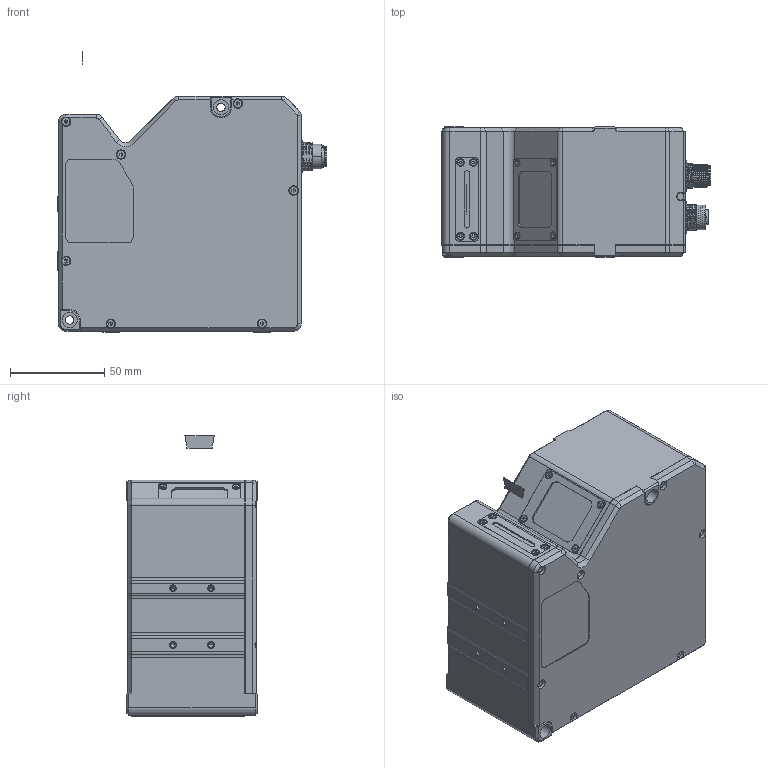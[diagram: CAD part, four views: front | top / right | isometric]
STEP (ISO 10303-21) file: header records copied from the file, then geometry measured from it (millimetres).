
FILE_DESCRIPTION((''),'2;1');
FILE_NAME('00-ALL-DP4020-NEW_ASM','2024-02-29T13:57:18',('duhuaiyuan'),(''),'CREO PARAMETRIC BY PTC INC, 2020044','CREO PARAMETRIC BY PTC INC, 2020044','');
FILE_SCHEMA(('CONFIG_CONTROL_DESIGN'));
Products named in the file (17): DE-14-043115; DE-14-027958; DE-18-000119; DE-20-013982_ASM; DE-14-043153; DE-18-000141; JGLGPZJ_4020_ASM; DE-12-004014; SC-KM2X4-H-B; WKZJ_4020_ASM; DE-14-043120; DBZJ_4020_ASM; SC-AM2_5X8NL-BNI-SCM435-GB70_1; 101304205; 101304206; PCB_JKB_4K-NEW_ASM; 00-ALL-DP4020-NEW_ASM
Assembly tree (29 placements, depth 4):
  00-ALL-DP4020-NEW_ASM
    WKZJ_4020_ASM
      DE-14-043115
      DE-20-013982_ASM
        DE-14-027958
        DE-18-000119
      JGLGPZJ_4020_ASM
        DE-14-043153
        DE-18-000141
      DE-12-004014
      SC-KM2X4-H-B  x8
    DBZJ_4020_ASM
      DE-14-043120
    SC-AM2_5X8NL-BNI-SCM435-GB70_1  x7
    PCB_JKB_4K-NEW_ASM
      101304205
      101304206
Bounding box: 142.4 x 69 x 148.45 mm (x, y, z)
Volume: 1019745.2 mm3; surface area: 116322.2 mm2
Topology: 49 solids, 93 shells, 2056 faces, 5365 edges, 3475 vertices
Faces by surface type: cylinder 821, plane 686, cone 313, bspline 104, torus 92, sphere 40
Entity records: 67719 total; most frequent: CARTESIAN_POINT 23288, DIRECTION 9394, ORIENTED_EDGE 9076, EDGE_CURVE 4593, AXIS2_PLACEMENT_3D 3708, VERTEX_POINT 3057, EDGE_LOOP 2027, CIRCLE 1987
